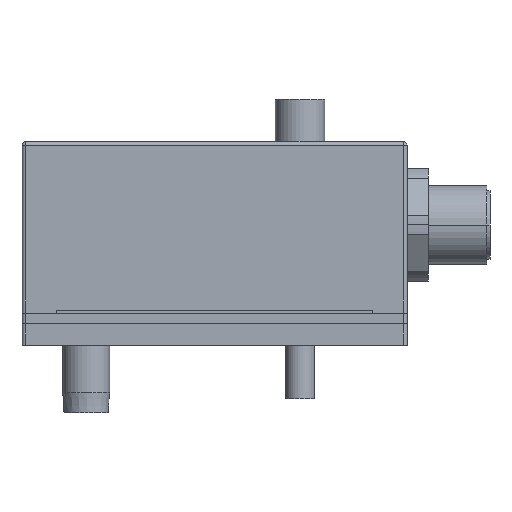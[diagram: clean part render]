
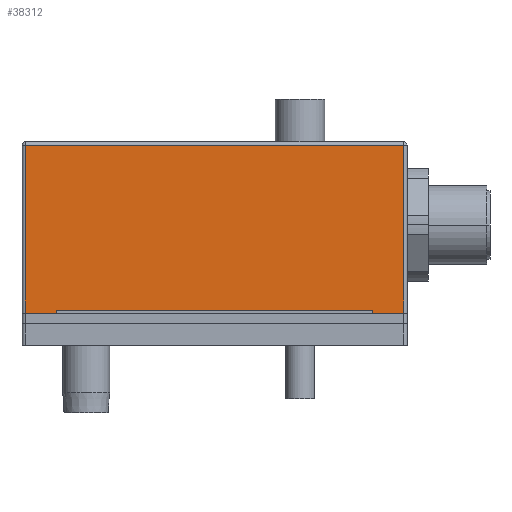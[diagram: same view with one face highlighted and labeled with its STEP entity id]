
A CAD part, top view. The second image highlights one B-rep face of the part: STEP entity #38312.
In plain terms, the highlighted planar face has unit normal (0, 0, 1).
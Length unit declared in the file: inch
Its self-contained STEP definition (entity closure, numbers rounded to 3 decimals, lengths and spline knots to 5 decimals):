
#61 = DIRECTION ( 'NONE',  ( -1., 0., 0. ) ) ;
#162 = CARTESIAN_POINT ( 'NONE',  ( 0.925, 0.015, 0.5 ) ) ;
#615 = FACE_OUTER_BOUND ( 'NONE', #13863, .T. ) ;
#1196 = DIRECTION ( 'NONE',  ( 0., -1., 0. ) ) ;
#1524 = VERTEX_POINT ( 'NONE', #36672 ) ;
#1833 = CARTESIAN_POINT ( 'NONE',  ( 1.105, 1., 0.5 ) ) ;
#1894 = EDGE_CURVE ( 'NONE', #45048, #31323, #18339, .T. ) ;
#1951 = CARTESIAN_POINT ( 'NONE',  ( -1.125, 0., 0.5 ) ) ;
#1953 = VERTEX_POINT ( 'NONE', #37126 ) ;
#2819 = LINE ( 'NONE', #1833, #13821 ) ;
#3597 = CARTESIAN_POINT ( 'NONE',  ( -1.125, 1., 0.5 ) ) ;
#3686 = CARTESIAN_POINT ( 'NONE',  ( -0.925, 0.015, 0.5 ) ) ;
#3731 = CARTESIAN_POINT ( 'NONE',  ( -1.105, 1., 0.5 ) ) ;
#4907 = ORIENTED_EDGE ( 'NONE', *, *, #22203, .T. ) ;
#5720 = LINE ( 'NONE', #3731, #14407 ) ;
#5781 = DIRECTION ( 'NONE',  ( 1., 0., 0. ) ) ;
#6160 = EDGE_CURVE ( 'NONE', #1524, #10143, #35938, .T. ) ;
#8588 = ORIENTED_EDGE ( 'NONE', *, *, #10307, .T. ) ;
#9219 = CARTESIAN_POINT ( 'NONE',  ( 0.925, 0.015, 0.5 ) ) ;
#10143 = VERTEX_POINT ( 'NONE', #28618 ) ;
#10307 = EDGE_CURVE ( 'NONE', #31323, #28182, #5720, .T. ) ;
#11713 = LINE ( 'NONE', #23339, #41200 ) ;
#13777 = EDGE_CURVE ( 'NONE', #26076, #1953, #43087, .T. ) ;
#13821 = VECTOR ( 'NONE', #20574, 39.37008 ) ;
#13863 = EDGE_LOOP ( 'NONE', ( #22974, #45221, #26500, #8588, #46137, #43073, #30342, #4907 ) ) ;
#14407 = VECTOR ( 'NONE', #18619, 39.37008 ) ;
#15915 = CARTESIAN_POINT ( 'NONE',  ( -1.105, 0.98, 0.5 ) ) ;
#18339 = LINE ( 'NONE', #36478, #44353 ) ;
#18491 = PLANE ( 'NONE',  #41712 ) ;
#18619 = DIRECTION ( 'NONE',  ( 0., -1., 0. ) ) ;
#20574 = DIRECTION ( 'NONE',  ( 0., 1., 0. ) ) ;
#20620 = CARTESIAN_POINT ( 'NONE',  ( 1.105, 0.98, 0.5 ) ) ;
#20968 = CARTESIAN_POINT ( 'NONE',  ( -1.125, 0., 0.5 ) ) ;
#22192 = DIRECTION ( 'NONE',  ( 0., 0., -1. ) ) ;
#22203 = EDGE_CURVE ( 'NONE', #28359, #1524, #11713, .T. ) ;
#22974 = ORIENTED_EDGE ( 'NONE', *, *, #6160, .T. ) ;
#23162 = EDGE_CURVE ( 'NONE', #28182, #1953, #44031, .T. ) ;
#23339 = CARTESIAN_POINT ( 'NONE',  ( 0.925, 0.015, 0.5 ) ) ;
#23461 = VECTOR ( 'NONE', #29608, 39.37008 ) ;
#24368 = VECTOR ( 'NONE', #5781, 39.37008 ) ;
#26076 = VERTEX_POINT ( 'NONE', #3686 ) ;
#26500 = ORIENTED_EDGE ( 'NONE', *, *, #1894, .T. ) ;
#28182 = VERTEX_POINT ( 'NONE', #47176 ) ;
#28359 = VERTEX_POINT ( 'NONE', #162 ) ;
#28618 = CARTESIAN_POINT ( 'NONE',  ( 1.105, 0., 0.5 ) ) ;
#29608 = DIRECTION ( 'NONE',  ( 0., -1., 0. ) ) ;
#29707 = EDGE_CURVE ( 'NONE', #10143, #45048, #2819, .T. ) ;
#30342 = ORIENTED_EDGE ( 'NONE', *, *, #34101, .F. ) ;
#31323 = VERTEX_POINT ( 'NONE', #15915 ) ;
#31529 = DIRECTION ( 'NONE',  ( 1., 0., 0. ) ) ;
#32655 = VECTOR ( 'NONE', #46057, 39.37008 ) ;
#34101 = EDGE_CURVE ( 'NONE', #28359, #26076, #39006, .T. ) ;
#34799 = VECTOR ( 'NONE', #31529, 39.37008 ) ;
#35938 = LINE ( 'NONE', #1951, #34799 ) ;
#36478 = CARTESIAN_POINT ( 'NONE',  ( -1.125, 0.98, 0.5 ) ) ;
#36672 = CARTESIAN_POINT ( 'NONE',  ( 0.925, 0., 0.5 ) ) ;
#36869 = CARTESIAN_POINT ( 'NONE',  ( -0.925, 0.015, 0.5 ) ) ;
#37126 = CARTESIAN_POINT ( 'NONE',  ( -0.925, 0., 0.5 ) ) ;
#38312 = ADVANCED_FACE ( 'NONE', ( #615 ), #18491, .F. ) ;
#39006 = LINE ( 'NONE', #9219, #32655 ) ;
#40518 = DIRECTION ( 'NONE',  ( -1., 0., 0. ) ) ;
#41200 = VECTOR ( 'NONE', #1196, 39.37008 ) ;
#41712 = AXIS2_PLACEMENT_3D ( 'NONE', #3597, #22192, #61 ) ;
#43073 = ORIENTED_EDGE ( 'NONE', *, *, #13777, .F. ) ;
#43087 = LINE ( 'NONE', #36869, #23461 ) ;
#44031 = LINE ( 'NONE', #20968, #24368 ) ;
#44353 = VECTOR ( 'NONE', #40518, 39.37008 ) ;
#45048 = VERTEX_POINT ( 'NONE', #20620 ) ;
#45221 = ORIENTED_EDGE ( 'NONE', *, *, #29707, .T. ) ;
#46057 = DIRECTION ( 'NONE',  ( -1., 0., 0. ) ) ;
#46137 = ORIENTED_EDGE ( 'NONE', *, *, #23162, .T. ) ;
#47176 = CARTESIAN_POINT ( 'NONE',  ( -1.105, 0., 0.5 ) ) ;
